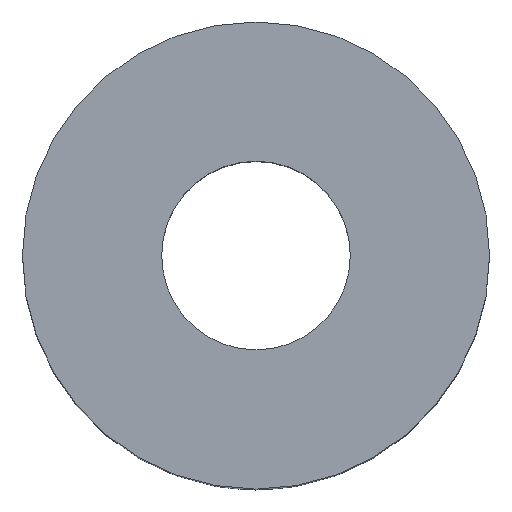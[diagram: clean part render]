
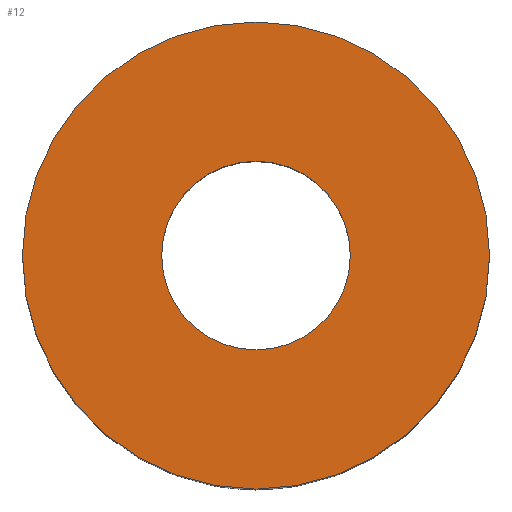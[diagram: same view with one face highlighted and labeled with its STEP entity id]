
A CAD part, top view. The second image highlights one B-rep face of the part: STEP entity #12.
In plain terms, the highlighted planar face has unit normal (0, 0, 1).
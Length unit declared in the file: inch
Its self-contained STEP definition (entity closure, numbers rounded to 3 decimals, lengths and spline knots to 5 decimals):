
#9 = CARTESIAN_POINT ( 'NONE',  ( -0.3281, 0., 1.75 ) ) ;
#12 = ADVANCED_FACE ( 'NONE', ( #101, #162 ), #103, .T. ) ;
#15 = VERTEX_POINT ( 'NONE', #213 ) ;
#40 = CARTESIAN_POINT ( 'NONE',  ( 0., 0., 1.75 ) ) ;
#44 = DIRECTION ( 'NONE',  ( 0., 0., 1. ) ) ;
#70 = CARTESIAN_POINT ( 'NONE',  ( 0., 0., 1.75 ) ) ;
#85 = DIRECTION ( 'NONE',  ( 1., 0., 0. ) ) ;
#101 = FACE_BOUND ( 'NONE', #570, .T. ) ;
#103 = PLANE ( 'NONE',  #420 ) ;
#108 = VERTEX_POINT ( 'NONE', #128 ) ;
#128 = CARTESIAN_POINT ( 'NONE',  ( 0.8125, 0., 1.75 ) ) ;
#162 = FACE_OUTER_BOUND ( 'NONE', #478, .T. ) ;
#188 = DIRECTION ( 'NONE',  ( 1., 0., 0. ) ) ;
#201 = ORIENTED_EDGE ( 'NONE', *, *, #216, .F. ) ;
#213 = CARTESIAN_POINT ( 'NONE',  ( -0.8125, 0., 1.75 ) ) ;
#216 = EDGE_CURVE ( 'NONE', #545, #573, #418, .T. ) ;
#237 = EDGE_CURVE ( 'NONE', #573, #545, #583, .T. ) ;
#332 = AXIS2_PLACEMENT_3D ( 'NONE', #542, #356, #359 ) ;
#339 = DIRECTION ( 'NONE',  ( 1., 0., 0. ) ) ;
#341 = ORIENTED_EDGE ( 'NONE', *, *, #237, .F. ) ;
#343 = CARTESIAN_POINT ( 'NONE',  ( 0., 0., 1.75 ) ) ;
#350 = DIRECTION ( 'NONE',  ( 0., 0., 1. ) ) ;
#356 = DIRECTION ( 'NONE',  ( 0., 0., 1. ) ) ;
#359 = DIRECTION ( 'NONE',  ( 1., 0., 0. ) ) ;
#372 = CIRCLE ( 'NONE', #332, 0.8125 ) ;
#376 = EDGE_CURVE ( 'NONE', #15, #108, #372, .T. ) ;
#417 = DIRECTION ( 'NONE',  ( 0., 0., 1. ) ) ;
#418 = CIRCLE ( 'NONE', #530, 0.3281 ) ;
#420 = AXIS2_PLACEMENT_3D ( 'NONE', #465, #417, #516 ) ;
#438 = ORIENTED_EDGE ( 'NONE', *, *, #376, .T. ) ;
#465 = CARTESIAN_POINT ( 'NONE',  ( 0., 0., 1.75 ) ) ;
#478 = EDGE_LOOP ( 'NONE', ( #438, #589 ) ) ;
#497 = AXIS2_PLACEMENT_3D ( 'NONE', #40, #44, #85 ) ;
#516 = DIRECTION ( 'NONE',  ( 1., 0., 0. ) ) ;
#530 = AXIS2_PLACEMENT_3D ( 'NONE', #70, #640, #339 ) ;
#542 = CARTESIAN_POINT ( 'NONE',  ( 0., 0., 1.75 ) ) ;
#545 = VERTEX_POINT ( 'NONE', #9 ) ;
#551 = CIRCLE ( 'NONE', #625, 0.8125 ) ;
#570 = EDGE_LOOP ( 'NONE', ( #341, #201 ) ) ;
#573 = VERTEX_POINT ( 'NONE', #624 ) ;
#583 = CIRCLE ( 'NONE', #497, 0.3281 ) ;
#589 = ORIENTED_EDGE ( 'NONE', *, *, #610, .T. ) ;
#610 = EDGE_CURVE ( 'NONE', #108, #15, #551, .T. ) ;
#624 = CARTESIAN_POINT ( 'NONE',  ( 0.3281, 0., 1.75 ) ) ;
#625 = AXIS2_PLACEMENT_3D ( 'NONE', #343, #350, #188 ) ;
#640 = DIRECTION ( 'NONE',  ( 0., 0., 1. ) ) ;
